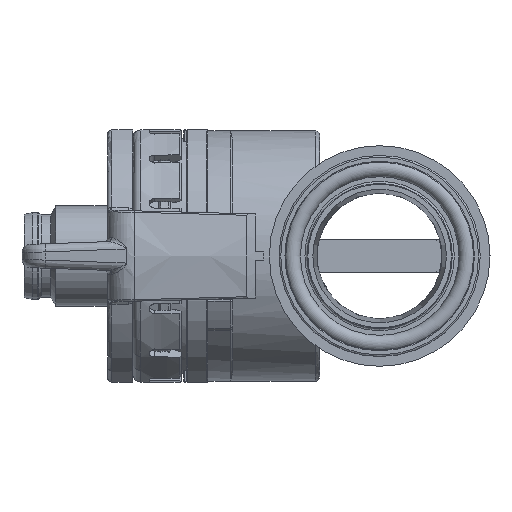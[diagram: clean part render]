
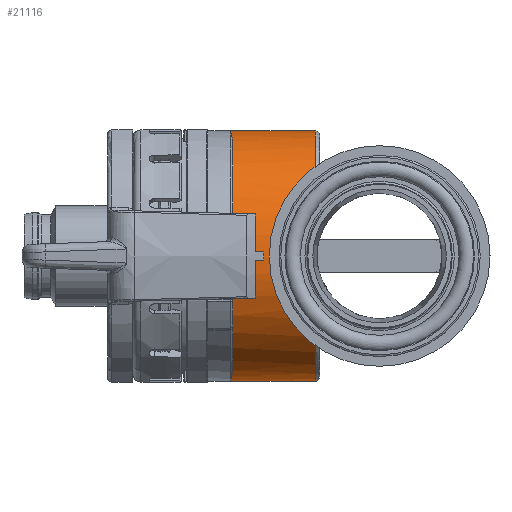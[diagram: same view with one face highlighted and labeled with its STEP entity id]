
A CAD part, left-side view. The second image highlights one B-rep face of the part: STEP entity #21116.
In plain terms, the highlighted cylindrical face has radius 15 mm (diameter 30 mm), a full revolution.
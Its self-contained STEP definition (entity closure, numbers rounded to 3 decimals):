
#4003=CYLINDRICAL_SURFACE('',#25903,15.);
#4613=B_SPLINE_CURVE_WITH_KNOTS('',3,(#42418,#42419,#42420,#42421),
 .UNSPECIFIED.,.F.,.F.,(4,4),(0.,1.),.UNSPECIFIED.);
#4616=B_SPLINE_CURVE_WITH_KNOTS('',3,(#42454,#42455,#42456,#42457),
 .UNSPECIFIED.,.F.,.F.,(4,4),(0.,1.),.UNSPECIFIED.);
#4621=B_SPLINE_CURVE_WITH_KNOTS('',3,(#42566,#42567,#42568,#42569,#42570,
#42571,#42572,#42573,#42574,#42575,#42576,#42577,#42578,#42579),
 .UNSPECIFIED.,.F.,.F.,(4,2,2,2,2,2,4),(0.,0.125,0.25,0.5,0.625,0.75,1.),
 .UNSPECIFIED.);
#4622=B_SPLINE_CURVE_WITH_KNOTS('',3,(#42583,#42584,#42585,#42586,#42587,
#42588,#42589,#42590,#42591,#42592,#42593,#42594,#42595,#42596),
 .UNSPECIFIED.,.F.,.F.,(4,2,2,2,2,2,4),(0.,0.125,0.25,0.5,0.625,0.75,1.),
 .UNSPECIFIED.);
#4623=B_SPLINE_CURVE_WITH_KNOTS('',3,(#42597,#42598,#42599,#42600),
 .UNSPECIFIED.,.F.,.F.,(4,4),(0.,1.),.UNSPECIFIED.);
#4624=B_SPLINE_CURVE_WITH_KNOTS('',3,(#42601,#42602,#42603,#42604),
 .UNSPECIFIED.,.F.,.F.,(4,4),(0.,1.),.UNSPECIFIED.);
#5546=EDGE_LOOP('',(#9550,#9551,#9552,#9553));
#5547=EDGE_LOOP('',(#9554,#9555,#9556,#9557,#9558,#9559));
#9550=ORIENTED_EDGE('',*,*,#12909,.T.);
#9551=ORIENTED_EDGE('',*,*,#12910,.T.);
#9552=ORIENTED_EDGE('',*,*,#12911,.T.);
#9553=ORIENTED_EDGE('',*,*,#12912,.T.);
#9554=ORIENTED_EDGE('',*,*,#12874,.T.);
#9555=ORIENTED_EDGE('',*,*,#12913,.T.);
#9556=ORIENTED_EDGE('',*,*,#12882,.T.);
#9557=ORIENTED_EDGE('',*,*,#12865,.T.);
#9558=ORIENTED_EDGE('',*,*,#12914,.T.);
#9559=ORIENTED_EDGE('',*,*,#12915,.T.);
#12865=EDGE_CURVE('',#23226,#23220,#4613,.T.);
#12874=EDGE_CURVE('',#23234,#23228,#4616,.T.);
#12882=EDGE_CURVE('',#23243,#23226,#14034,.T.);
#12909=EDGE_CURVE('',#23268,#23269,#14048,.T.);
#12910=EDGE_CURVE('',#23269,#23270,#4621,.T.);
#12911=EDGE_CURVE('',#23270,#23271,#14049,.T.);
#12912=EDGE_CURVE('',#23271,#23268,#4622,.T.);
#12913=EDGE_CURVE('',#23228,#23243,#4623,.T.);
#12914=EDGE_CURVE('',#23220,#23272,#4624,.T.);
#12915=EDGE_CURVE('',#23272,#23234,#14050,.T.);
#14034=CIRCLE('',#25880,15.);
#14048=CIRCLE('',#25900,15.);
#14049=CIRCLE('',#25901,15.);
#14050=CIRCLE('',#25902,15.);
#21116=ADVANCED_FACE('',(#21841,#21842),#4003,.T.);
#21841=FACE_BOUND('',#5546,.T.);
#21842=FACE_BOUND('',#5547,.T.);
#23220=VERTEX_POINT('',#42388);
#23226=VERTEX_POINT('',#42400);
#23228=VERTEX_POINT('',#42424);
#23234=VERTEX_POINT('',#42436);
#23243=VERTEX_POINT('',#42495);
#23268=VERTEX_POINT('',#42564);
#23269=VERTEX_POINT('',#42565);
#23270=VERTEX_POINT('',#42580);
#23271=VERTEX_POINT('',#42582);
#23272=VERTEX_POINT('',#42605);
#25880=AXIS2_PLACEMENT_3D('',#42494,#29645,#29646);
#25900=AXIS2_PLACEMENT_3D('',#42563,#29695,#29696);
#25901=AXIS2_PLACEMENT_3D('',#42581,#29697,#29698);
#25902=AXIS2_PLACEMENT_3D('',#42606,#29699,#29700);
#25903=AXIS2_PLACEMENT_3D('',#42607,#29701,#29702);
#29645=DIRECTION('',(0.,-1.,0.));
#29646=DIRECTION('',(0.,0.,-1.));
#29695=DIRECTION('',(0.,1.,0.));
#29696=DIRECTION('',(0.,0.,-1.));
#29697=DIRECTION('',(0.,1.,0.));
#29698=DIRECTION('',(0.,0.,-1.));
#29699=DIRECTION('',(0.,-1.,0.));
#29700=DIRECTION('',(0.,0.,-1.));
#29701=DIRECTION('',(0.,-1.,0.));
#29702=DIRECTION('',(0.,0.,-1.));
#42388=CARTESIAN_POINT('',(0.,-2.15,-15.));
#42400=CARTESIAN_POINT('',(-6.066,-2.4,-13.719));
#42418=CARTESIAN_POINT('',(-6.066,-2.4,-13.719));
#42419=CARTESIAN_POINT('',(-4.147,-2.233,-14.567));
#42420=CARTESIAN_POINT('',(-2.106,-2.15,-15.));
#42421=CARTESIAN_POINT('',(0.,-2.15,-15.));
#42424=CARTESIAN_POINT('',(0.,-2.15,15.));
#42436=CARTESIAN_POINT('',(6.066,-2.4,13.719));
#42454=CARTESIAN_POINT('',(6.066,-2.4,13.719));
#42455=CARTESIAN_POINT('',(4.147,-2.233,14.567));
#42456=CARTESIAN_POINT('',(2.106,-2.15,15.));
#42457=CARTESIAN_POINT('',(0.,-2.15,15.));
#42494=CARTESIAN_POINT('',(0.,-2.4,0.));
#42495=CARTESIAN_POINT('',(-6.066,-2.4,13.719));
#42563=CARTESIAN_POINT('',(0.,-12.3,0.));
#42564=CARTESIAN_POINT('',(12.931,-12.3,-7.602));
#42565=CARTESIAN_POINT('',(-12.931,-12.3,-7.602));
#42566=CARTESIAN_POINT('',(-12.931,-12.3,-7.602));
#42567=CARTESIAN_POINT('',(-13.218,-11.786,-7.114));
#42568=CARTESIAN_POINT('',(-13.49,-11.329,-6.589));
#42569=CARTESIAN_POINT('',(-13.984,-10.529,-5.461));
#42570=CARTESIAN_POINT('',(-14.196,-10.204,-4.897));
#42571=CARTESIAN_POINT('',(-14.789,-9.299,-2.872));
#42572=CARTESIAN_POINT('',(-15.001,-8.999,-1.437));
#42573=CARTESIAN_POINT('',(-15.,-9.001,0.733));
#42574=CARTESIAN_POINT('',(-14.947,-9.076,1.451));
#42575=CARTESIAN_POINT('',(-14.742,-9.378,2.861));
#42576=CARTESIAN_POINT('',(-14.579,-9.619,3.589));
#42577=CARTESIAN_POINT('',(-14.019,-10.473,5.499));
#42578=CARTESIAN_POINT('',(-13.504,-11.272,6.627));
#42579=CARTESIAN_POINT('',(-12.931,-12.3,7.602));
#42580=CARTESIAN_POINT('',(-12.931,-12.3,7.602));
#42581=CARTESIAN_POINT('',(0.,-12.3,0.));
#42582=CARTESIAN_POINT('',(12.931,-12.3,7.602));
#42583=CARTESIAN_POINT('',(12.931,-12.3,7.602));
#42584=CARTESIAN_POINT('',(13.218,-11.786,7.114));
#42585=CARTESIAN_POINT('',(13.49,-11.329,6.589));
#42586=CARTESIAN_POINT('',(13.984,-10.529,5.461));
#42587=CARTESIAN_POINT('',(14.196,-10.204,4.897));
#42588=CARTESIAN_POINT('',(14.789,-9.299,2.872));
#42589=CARTESIAN_POINT('',(15.001,-8.999,1.437));
#42590=CARTESIAN_POINT('',(15.,-9.001,-0.733));
#42591=CARTESIAN_POINT('',(14.947,-9.076,-1.451));
#42592=CARTESIAN_POINT('',(14.742,-9.378,-2.861));
#42593=CARTESIAN_POINT('',(14.579,-9.619,-3.589));
#42594=CARTESIAN_POINT('',(14.019,-10.473,-5.499));
#42595=CARTESIAN_POINT('',(13.504,-11.272,-6.627));
#42596=CARTESIAN_POINT('',(12.931,-12.3,-7.602));
#42597=CARTESIAN_POINT('',(0.,-2.15,15.));
#42598=CARTESIAN_POINT('',(-2.107,-2.15,15.));
#42599=CARTESIAN_POINT('',(-4.146,-2.233,14.568));
#42600=CARTESIAN_POINT('',(-6.066,-2.4,13.719));
#42601=CARTESIAN_POINT('',(0.,-2.15,-15.));
#42602=CARTESIAN_POINT('',(2.107,-2.15,-15.));
#42603=CARTESIAN_POINT('',(4.146,-2.233,-14.568));
#42604=CARTESIAN_POINT('',(6.066,-2.4,-13.719));
#42605=CARTESIAN_POINT('',(6.066,-2.4,-13.719));
#42606=CARTESIAN_POINT('',(0.,-2.4,0.));
#42607=CARTESIAN_POINT('',(0.,-20.,0.));
